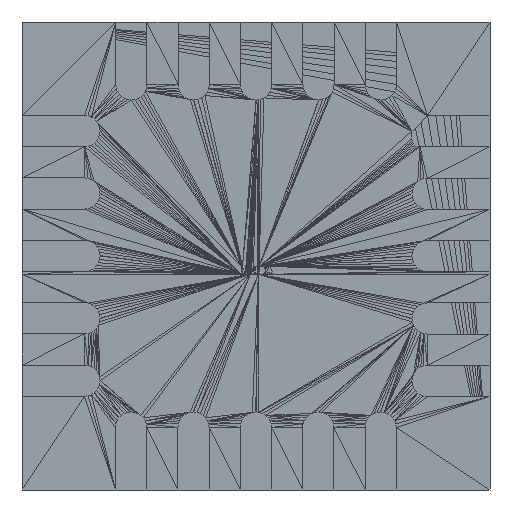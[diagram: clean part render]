
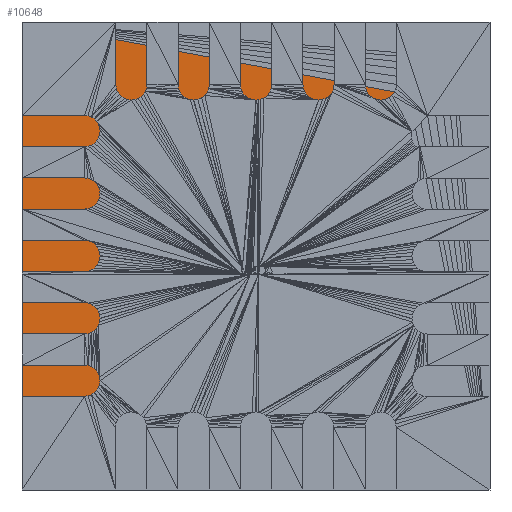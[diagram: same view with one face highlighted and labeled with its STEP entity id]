
A CAD part, front view. The second image highlights one B-rep face of the part: STEP entity #10648.
In plain terms, the highlighted planar face has unit normal (0, 1, 0).
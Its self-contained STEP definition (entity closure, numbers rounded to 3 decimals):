
#10562 = VERTEX_POINT('',#10563);
#10563 = CARTESIAN_POINT('',(-590.6,218.5,
    590.6));
#10631 = VERTEX_POINT('',#10632);
#10632 = CARTESIAN_POINT('',(357.,218.5,412.7));
#10638 = EDGE_CURVE('',#10631,#10562,#10639,.T.);
#10639 = LINE('',#10640,#10641);
#10640 = CARTESIAN_POINT('',(357.,218.5,412.7));
#10641 = VECTOR('',#10642,1.);
#10642 = DIRECTION('',(-0.983,0.,
    0.185));
#10648 = ADVANCED_FACE('',(#10649),#10666,.T.);
#10649 = FACE_BOUND('',#10650,.T.);
#10650 = EDGE_LOOP('',(#10651,#10652,#10660));
#10651 = ORIENTED_EDGE('',*,*,#10638,.F.);
#10652 = ORIENTED_EDGE('',*,*,#10653,.T.);
#10653 = EDGE_CURVE('',#10631,#10654,#10656,.T.);
#10654 = VERTEX_POINT('',#10655);
#10655 = CARTESIAN_POINT('',(-590.6,218.5,-590.6));
#10656 = LINE('',#10657,#10658);
#10657 = CARTESIAN_POINT('',(357.,218.5,412.7));
#10658 = VECTOR('',#10659,1.);
#10659 = DIRECTION('',(-0.687,0.,-0.727));
#10660 = ORIENTED_EDGE('',*,*,#10661,.T.);
#10661 = EDGE_CURVE('',#10654,#10562,#10662,.T.);
#10662 = LINE('',#10663,#10664);
#10663 = CARTESIAN_POINT('',(-590.6,218.5,-590.6));
#10664 = VECTOR('',#10665,1.);
#10665 = DIRECTION('',(0.,0.,1.));
#10666 = PLANE('',#10667);
#10667 = AXIS2_PLACEMENT_3D('',#10668,#10669,#10670);
#10668 = CARTESIAN_POINT('',(-275.548,218.5,
    102.374));
#10669 = DIRECTION('',(0.,1.,0.));
#10670 = DIRECTION('',(1.,0.,0.));
